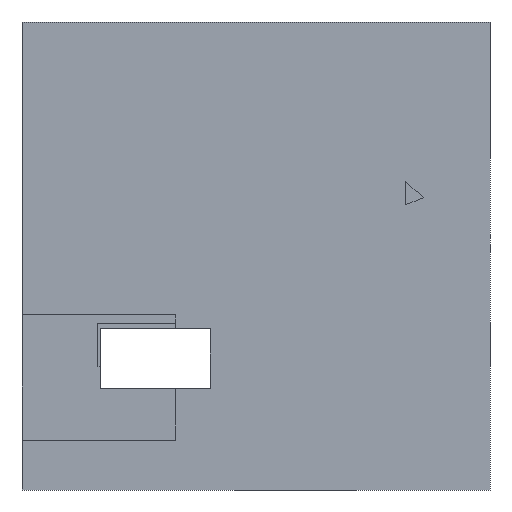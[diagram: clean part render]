
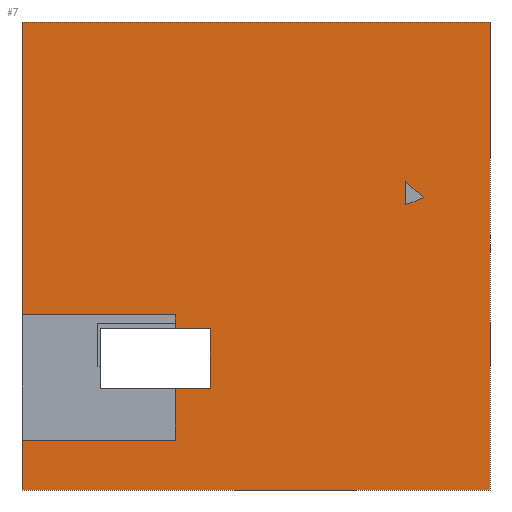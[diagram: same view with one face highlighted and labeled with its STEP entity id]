
A CAD part, front view. The second image highlights one B-rep face of the part: STEP entity #7.
In plain terms, the highlighted planar face has unit normal (0, -1, 0).
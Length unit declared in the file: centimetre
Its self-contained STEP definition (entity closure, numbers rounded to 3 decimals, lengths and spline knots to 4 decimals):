
#7 = ADVANCED_FACE ( 'NONE', ( #1029, #839 ), #846, .F. ) ;
#19 = CARTESIAN_POINT ( 'NONE',  ( 0., 0., 374.4696 ) ) ;
#23 = LINE ( 'NONE', #1089, #1112 ) ;
#28 = LINE ( 'NONE', #388, #691 ) ;
#36 = EDGE_CURVE ( 'NONE', #291, #546, #329, .T. ) ;
#79 = VECTOR ( 'NONE', #964, 100. ) ;
#93 = EDGE_LOOP ( 'NONE', ( #352, #385, #791 ) ) ;
#104 = ORIENTED_EDGE ( 'NONE', *, *, #721, .F. ) ;
#136 = LINE ( 'NONE', #741, #1041 ) ;
#138 = ORIENTED_EDGE ( 'NONE', *, *, #615, .F. ) ;
#141 = VERTEX_POINT ( 'NONE', #934 ) ;
#149 = DIRECTION ( 'NONE',  ( -1., 0., 0. ) ) ;
#159 = LINE ( 'NONE', #502, #312 ) ;
#172 = AXIS2_PLACEMENT_3D ( 'NONE', #753, #400, #682 ) ;
#182 = ORIENTED_EDGE ( 'NONE', *, *, #36, .T. ) ;
#183 = LINE ( 'NONE', #643, #897 ) ;
#190 = VECTOR ( 'NONE', #416, 100. ) ;
#206 = ORIENTED_EDGE ( 'NONE', *, *, #871, .F. ) ;
#217 = LINE ( 'NONE', #849, #551 ) ;
#242 = CARTESIAN_POINT ( 'NONE',  ( 1000., 0., 0. ) ) ;
#255 = CARTESIAN_POINT ( 'NONE',  ( 0., 0., 0. ) ) ;
#259 = CARTESIAN_POINT ( 'NONE',  ( 819.9859, 0., 658.9534 ) ) ;
#275 = VECTOR ( 'NONE', #472, 100. ) ;
#291 = VERTEX_POINT ( 'NONE', #796 ) ;
#295 = DIRECTION ( 'NONE',  ( 0., 0., -1. ) ) ;
#308 = VERTEX_POINT ( 'NONE', #600 ) ;
#312 = VECTOR ( 'NONE', #418, 100. ) ;
#329 = LINE ( 'NONE', #1043, #812 ) ;
#339 = EDGE_CURVE ( 'NONE', #677, #719, #1133, .T. ) ;
#345 = CARTESIAN_POINT ( 'NONE',  ( 327.344, 0., 374.4696 ) ) ;
#352 = ORIENTED_EDGE ( 'NONE', *, *, #1047, .F. ) ;
#385 = ORIENTED_EDGE ( 'NONE', *, *, #732, .F. ) ;
#388 = CARTESIAN_POINT ( 'NONE',  ( 857.5395, 0., 624.7179 ) ) ;
#400 = DIRECTION ( 'NONE',  ( 0., 1., 0. ) ) ;
#403 = VECTOR ( 'NONE', #1033, 100. ) ;
#416 = DIRECTION ( 'NONE',  ( 0., 0., -1. ) ) ;
#418 = DIRECTION ( 'NONE',  ( 0., 0., -1. ) ) ;
#422 = LINE ( 'NONE', #259, #190 ) ;
#427 = CARTESIAN_POINT ( 'NONE',  ( 0., 0., 1000. ) ) ;
#446 = ORIENTED_EDGE ( 'NONE', *, *, #1147, .F. ) ;
#455 = DIRECTION ( 'NONE',  ( 0., 0., 1. ) ) ;
#466 = CARTESIAN_POINT ( 'NONE',  ( 402.6542, 0., 216.8329 ) ) ;
#472 = DIRECTION ( 'NONE',  ( 0., 0., -1. ) ) ;
#476 = ORIENTED_EDGE ( 'NONE', *, *, #774, .T. ) ;
#495 = ORIENTED_EDGE ( 'NONE', *, *, #766, .T. ) ;
#498 = ORIENTED_EDGE ( 'NONE', *, *, #925, .T. ) ;
#502 = CARTESIAN_POINT ( 'NONE',  ( 0., 0., 1000. ) ) ;
#518 = VECTOR ( 'NONE', #295, 100. ) ;
#546 = VERTEX_POINT ( 'NONE', #993 ) ;
#551 = VECTOR ( 'NONE', #931, 100. ) ;
#566 = ORIENTED_EDGE ( 'NONE', *, *, #339, .F. ) ;
#574 = DIRECTION ( 'NONE',  ( -0.739, 0., 0.674 ) ) ;
#579 = LINE ( 'NONE', #651, #275 ) ;
#580 = VERTEX_POINT ( 'NONE', #19 ) ;
#590 = CARTESIAN_POINT ( 'NONE',  ( 327.344, 0., 374.4696 ) ) ;
#594 = DIRECTION ( 'NONE',  ( -1., 0., 0. ) ) ;
#600 = CARTESIAN_POINT ( 'NONE',  ( 1000., 0., 1000. ) ) ;
#604 = DIRECTION ( 'NONE',  ( -1., 0., 0. ) ) ;
#610 = LINE ( 'NONE', #427, #79 ) ;
#615 = EDGE_CURVE ( 'NONE', #291, #724, #183, .T. ) ;
#620 = VECTOR ( 'NONE', #149, 100. ) ;
#634 = ORIENTED_EDGE ( 'NONE', *, *, #924, .T. ) ;
#643 = CARTESIAN_POINT ( 'NONE',  ( 327.344, 0., 106.4371 ) ) ;
#651 = CARTESIAN_POINT ( 'NONE',  ( 0., 0., 1000. ) ) ;
#652 = CARTESIAN_POINT ( 'NONE',  ( 327.344, 0., 216.8329 ) ) ;
#656 = DIRECTION ( 'NONE',  ( 0., 0., -1. ) ) ;
#671 = LINE ( 'NONE', #735, #403 ) ;
#677 = VERTEX_POINT ( 'NONE', #836 ) ;
#682 = DIRECTION ( 'NONE',  ( 0., 0., 1. ) ) ;
#691 = VECTOR ( 'NONE', #574, 100. ) ;
#699 = EDGE_CURVE ( 'NONE', #1085, #737, #671, .T. ) ;
#719 = VERTEX_POINT ( 'NONE', #590 ) ;
#721 = EDGE_CURVE ( 'NONE', #308, #815, #23, .T. ) ;
#724 = VERTEX_POINT ( 'NONE', #652 ) ;
#725 = EDGE_CURVE ( 'NONE', #677, #1028, #136, .T. ) ;
#732 = EDGE_CURVE ( 'NONE', #737, #907, #28, .T. ) ;
#735 = CARTESIAN_POINT ( 'NONE',  ( 819.9859, 0., 609.3132 ) ) ;
#737 = VERTEX_POINT ( 'NONE', #750 ) ;
#741 = CARTESIAN_POINT ( 'NONE',  ( 167.5145, 0., 344.8227 ) ) ;
#749 = EDGE_CURVE ( 'NONE', #785, #815, #217, .T. ) ;
#750 = CARTESIAN_POINT ( 'NONE',  ( 857.5395, 0., 624.7179 ) ) ;
#753 = CARTESIAN_POINT ( 'NONE',  ( 0., 0., 1000. ) ) ;
#766 = EDGE_CURVE ( 'NONE', #141, #724, #960, .T. ) ;
#770 = CARTESIAN_POINT ( 'NONE',  ( 0., 0., 1000. ) ) ;
#774 = EDGE_CURVE ( 'NONE', #546, #785, #159, .T. ) ;
#783 = ORIENTED_EDGE ( 'NONE', *, *, #749, .T. ) ;
#785 = VERTEX_POINT ( 'NONE', #255 ) ;
#786 = VECTOR ( 'NONE', #604, 100. ) ;
#790 = CARTESIAN_POINT ( 'NONE',  ( 819.9859, 0., 609.3132 ) ) ;
#791 = ORIENTED_EDGE ( 'NONE', *, *, #699, .F. ) ;
#796 = CARTESIAN_POINT ( 'NONE',  ( 327.344, 0., 106.4371 ) ) ;
#812 = VECTOR ( 'NONE', #594, 100. ) ;
#815 = VERTEX_POINT ( 'NONE', #242 ) ;
#823 = LINE ( 'NONE', #466, #518 ) ;
#836 = CARTESIAN_POINT ( 'NONE',  ( 327.344, 0., 344.8227 ) ) ;
#838 = ORIENTED_EDGE ( 'NONE', *, *, #725, .T. ) ;
#839 = FACE_OUTER_BOUND ( 'NONE', #1075, .T. ) ;
#846 = PLANE ( 'NONE',  #172 ) ;
#849 = CARTESIAN_POINT ( 'NONE',  ( 0., 0., 0. ) ) ;
#871 = EDGE_CURVE ( 'NONE', #719, #580, #1046, .T. ) ;
#881 = VECTOR ( 'NONE', #884, 100. ) ;
#884 = DIRECTION ( 'NONE',  ( 0., 0., 1. ) ) ;
#897 = VECTOR ( 'NONE', #455, 100. ) ;
#907 = VERTEX_POINT ( 'NONE', #1016 ) ;
#909 = CARTESIAN_POINT ( 'NONE',  ( 402.6542, 0., 344.8227 ) ) ;
#924 = EDGE_CURVE ( 'NONE', #1077, #580, #579, .T. ) ;
#925 = EDGE_CURVE ( 'NONE', #1028, #141, #823, .T. ) ;
#931 = DIRECTION ( 'NONE',  ( 1., 0., 0. ) ) ;
#934 = CARTESIAN_POINT ( 'NONE',  ( 402.6542, 0., 216.8329 ) ) ;
#960 = LINE ( 'NONE', #1145, #620 ) ;
#964 = DIRECTION ( 'NONE',  ( 1., 0., 0. ) ) ;
#974 = CARTESIAN_POINT ( 'NONE',  ( 327.344, 0., 106.4371 ) ) ;
#993 = CARTESIAN_POINT ( 'NONE',  ( 0., 0., 106.4371 ) ) ;
#1016 = CARTESIAN_POINT ( 'NONE',  ( 819.9859, 0., 658.9534 ) ) ;
#1028 = VERTEX_POINT ( 'NONE', #909 ) ;
#1029 = FACE_BOUND ( 'NONE', #93, .T. ) ;
#1033 = DIRECTION ( 'NONE',  ( 0.925, 0., 0.38 ) ) ;
#1041 = VECTOR ( 'NONE', #1094, 100. ) ;
#1043 = CARTESIAN_POINT ( 'NONE',  ( 327.344, 0., 106.4371 ) ) ;
#1046 = LINE ( 'NONE', #345, #786 ) ;
#1047 = EDGE_CURVE ( 'NONE', #907, #1085, #422, .T. ) ;
#1075 = EDGE_LOOP ( 'NONE', ( #634, #206, #566, #838, #498, #495, #138, #182, #476, #783, #104, #446 ) ) ;
#1077 = VERTEX_POINT ( 'NONE', #770 ) ;
#1085 = VERTEX_POINT ( 'NONE', #790 ) ;
#1089 = CARTESIAN_POINT ( 'NONE',  ( 1000., 0., 1000. ) ) ;
#1094 = DIRECTION ( 'NONE',  ( 1., 0., 0. ) ) ;
#1112 = VECTOR ( 'NONE', #656, 100. ) ;
#1133 = LINE ( 'NONE', #974, #881 ) ;
#1145 = CARTESIAN_POINT ( 'NONE',  ( 167.5145, 0., 216.8329 ) ) ;
#1147 = EDGE_CURVE ( 'NONE', #1077, #308, #610, .T. ) ;
